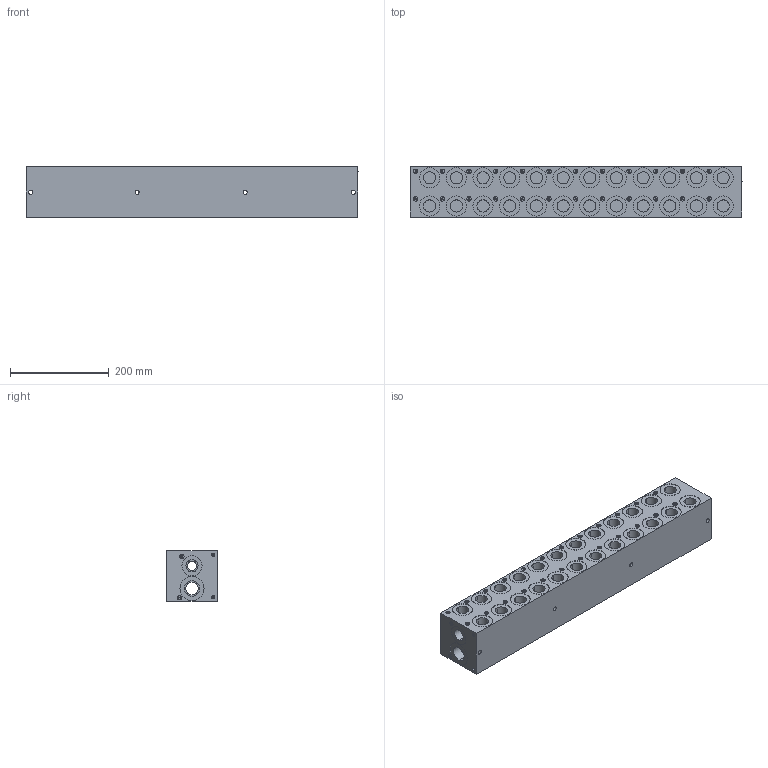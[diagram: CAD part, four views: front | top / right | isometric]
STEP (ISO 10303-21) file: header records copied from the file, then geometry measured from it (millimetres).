
FILE_DESCRIPTION (( 'STEP AP203' ), '1' );
FILE_NAME ('BMR-AHP03S2-12-1_Z.STEP', '2015-01-06T15:26:18', ( '' ), ( '' ), 'SwSTEP 2.0', 'SolidWorks 2014', '' );
FILE_SCHEMA (( 'CONFIG_CONTROL_DESIGN' ));
Length unit declared in the file: inch
Products named in the file (1): BMR-AHP03S2-12-1_Z
Bounding box: 673.1 x 101.6 x 101.6 mm (x, y, z)
Volume: 6117095.8 mm3; surface area: 452936.3 mm2
Topology: 1 solids, 1 shells, 1388 faces, 3310 edges, 2020 vertices
Faces by surface type: plane 528, cylinder 508, cone 224, bspline 128
Entity records: 45713 total; most frequent: CARTESIAN_POINT 14591, DIRECTION 6368, ORIENTED_EDGE 6172, EDGE_CURVE 3086, AXIS2_PLACEMENT_3D 2277, VERTEX_POINT 2020, VECTOR 1814, LINE 1814
